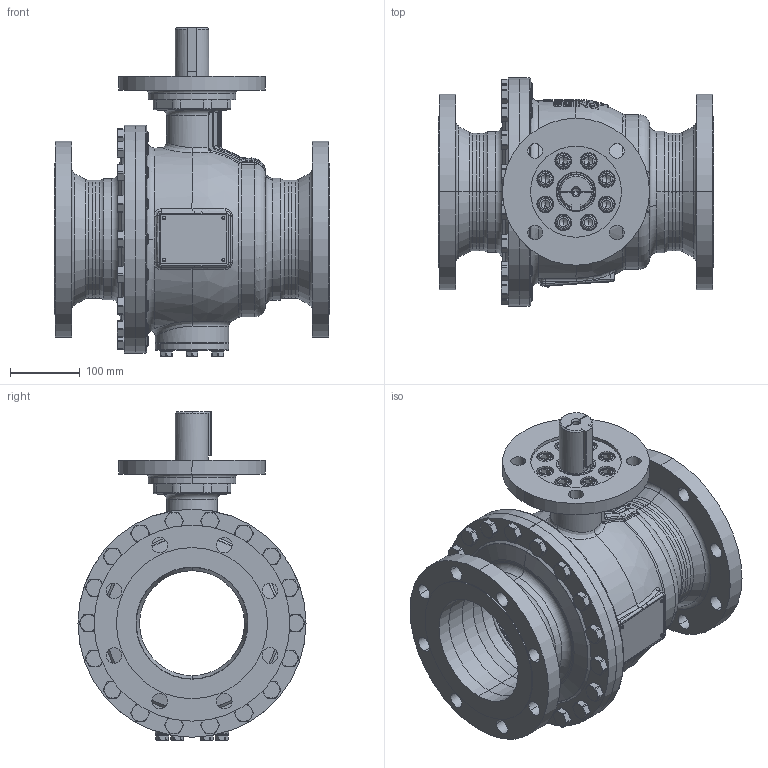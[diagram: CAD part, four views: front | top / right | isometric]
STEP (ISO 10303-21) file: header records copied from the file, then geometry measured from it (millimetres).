
FILE_DESCRIPTION((''),'2;1');
FILE_NAME('KHI-F_150_CL150-F16-P_SW0001','2026-02-05T11:59:49',('fischerkl'),('KLINGER'),'CREO PARAMETRIC BY PTC INC, 2023014','CREO PARAMETRIC BY PTC INC, 2023014','');
FILE_SCHEMA(('CONFIG_CONTROL_DESIGN'));
Products named in the file (1): KHI-F_150_CL150-F16-P_SW0001
Bounding box: 394 x 326 x 469.2 mm (x, y, z)
Volume: 8335952.3 mm3; surface area: 1574669.7 mm2
Topology: 1 solids, 4 shells, 3731 faces, 9548 edges, 5955 vertices
Faces by surface type: plane 2284, cylinder 680, cone 366, torus 260, bspline 113, sphere 28
Entity records: 144608 total; most frequent: CARTESIAN_POINT 56437, ORIENTED_EDGE 19044, DIRECTION 17421, EDGE_CURVE 9522, AXIS2_PLACEMENT_3D 6141, VERTEX_POINT 5955, VECTOR 5139, LINE 5139
